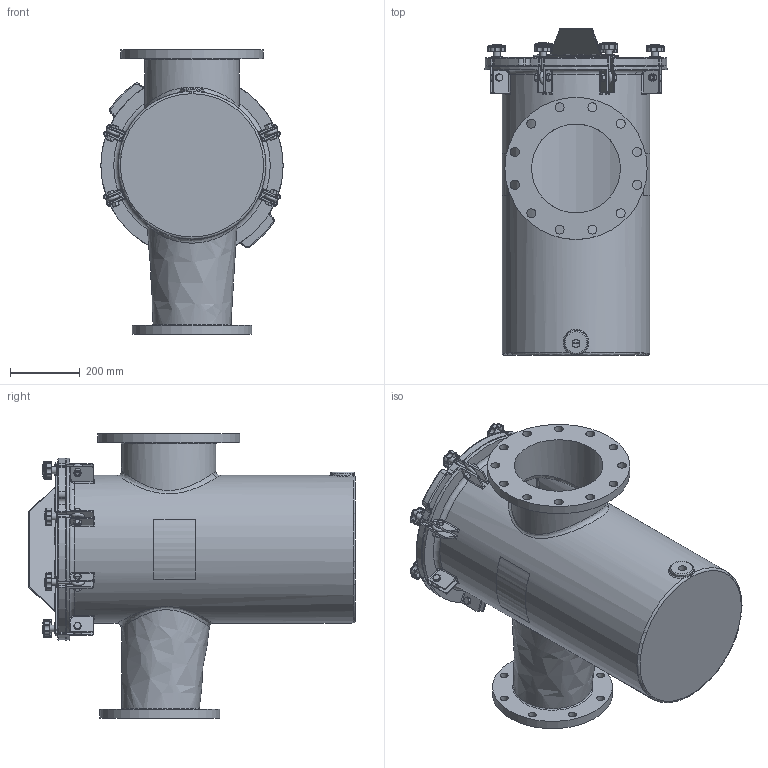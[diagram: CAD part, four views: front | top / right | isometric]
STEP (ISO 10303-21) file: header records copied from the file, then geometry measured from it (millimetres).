
FILE_DESCRIPTION(/* description */ ('STRAINER BODY'),/* implementation_level */ '2;1');
FILE_NAME(/* name */ '\\chntshnas1\IP_PUMPS\NeptuneBenson\Project Execution\WIP\Ready for delivery - Do not Disturb -Updated with metric Flange\Workspace\FG Reducing Strainer\150NBFG18ER1.stp',/* time_stamp */ '2016-10-19T11:56:40+05:00',/* author */ ('20076253'),/* organization */ (''),/* preprocessor_version */ 'ST-DEVELOPER v16.1',/* originating_system */ 'Autodesk Inventor 2016',/* authorisation */ '');
FILE_SCHEMA (('AUTOMOTIVE_DESIGN { 1 0 10303 214 3 1 1 }'));
Length unit declared in the file: inch
Products named in the file (24): NBFG18EBODYR1; 150NBCVR20R2; 150NBGSK16R1; Perforated Basket 16in; Bride (Ring) 16in; Baffle 16in; Handle 16in; Bottom Strainer 16in; NBBSK10T316; BRACESTRCVR16_Welds; BRACE (BASE) FOR 16 BODY; BRACE (PROJ) FOR 16 BODY; Bumper; BRACESTRCVR16; Nut- 1_2  UNC; Bolt-1_2 x 1 1_2  UNC; EyeBolt; Washer; Knob M10; Securing Assembly For FG  with Brace; Securing Assembly For FG without Brace; Label for 16.625 inch (Right); Label for 16.625 inch (Left); Guardian FG Reducing H&L Strainer (Inch)
Assembly tree (39 placements, depth 3):
  Guardian FG Reducing H&L Strainer (Inch)
    NBFG18EBODYR1
    150NBCVR20R2
    150NBGSK16R1
    NBBSK10T316
      Perforated Basket 16in
      Bride (Ring) 16in
      Baffle 16in
      Handle 16in
      Bottom Strainer 16in
    BRACESTRCVR16
      BRACESTRCVR16_Welds
      BRACE (BASE) FOR 16 BODY
      BRACE (PROJ) FOR 16 BODY
      Bumper  x6
    Securing Assembly For FG  with Brace  x2
      Nut- 1_2  UNC
      Bolt-1_2 x 1 1_2  UNC
      EyeBolt
      Washer
      Knob M10
    Securing Assembly For FG without Brace  x6
      Nut- 1_2  UNC
      Bolt-1_2 x 1 1_2  UNC
      EyeBolt
      Washer
      Knob M10
    Label for 16.625 inch (Right)
    Label for 16.625 inch (Left)
Bounding box: 520.7 x 933.45 x 812.8 mm (x, y, z)
Volume: 23306095.7 mm3; surface area: 5827695.9 mm2
Topology: 66 solids, 66 shells, 1804 faces, 4113 edges, 2430 vertices
Faces by surface type: cylinder 658, plane 500, cone 184, torus 166, sphere 158, bspline 138
Full cylindrical faces by diameter (mm): 3.175 x11, 6.35 x2, 8.382 x8, 9.525 x16, 10.592 x8, 12.7 x8, 15.875 x16, 19 x16, 19.05 x8, 22.225 x8, 22.809 x1, 25.4 x12, 31.75 x8, 68.263 x1, 254 x1, 269.875 x1, 295.275 x2, 298.45 x1, 300.99 x1, 342.9 x1, 406.4 x3, 409.575 x1, 415.925 x1, 422.275 x1, 457.2 x1, 463.55 x1
Entity records: 33898 total; most frequent: CARTESIAN_POINT 11107, DIRECTION 4715, ORIENTED_EDGE 4300, EDGE_CURVE 2150, AXIS2_PLACEMENT_3D 1934, VERTEX_POINT 1347, EDGE_LOOP 1167, ADVANCED_FACE 954
